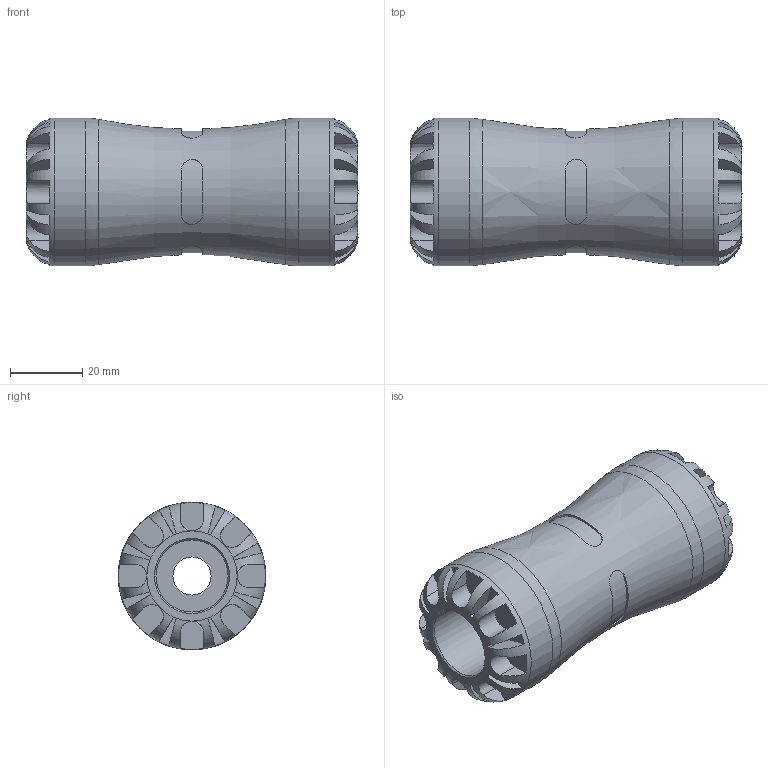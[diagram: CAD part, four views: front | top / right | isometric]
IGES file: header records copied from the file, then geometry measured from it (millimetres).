
Global section: file name: 1001M6020005.ipt; native system: Autodesk Inventor 2015; preprocessor: unknown; author: KIM; date: 20170122.104720; units: millimetre
Bounding box: 92 x 41 x 41 mm (x, y, z)
Volume: 79864.7 mm3; surface area: 19829 mm2
Topology: 1 solids, 1 shells, 164 faces, 427 edges, 270 vertices
Faces by surface type: plane 108, revolution 34, cylinder 22
Full cylindrical faces by diameter (mm): 41 x2
